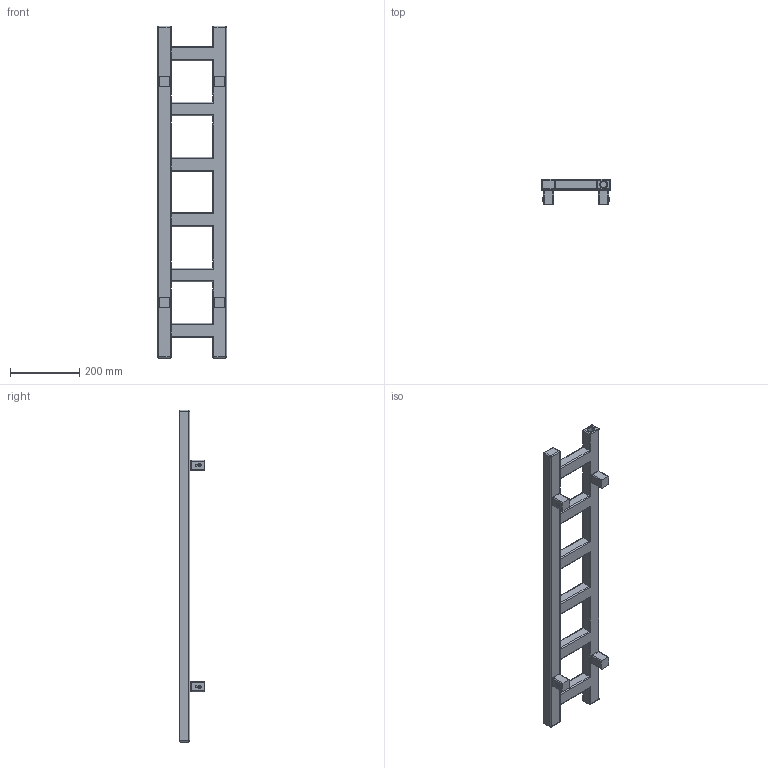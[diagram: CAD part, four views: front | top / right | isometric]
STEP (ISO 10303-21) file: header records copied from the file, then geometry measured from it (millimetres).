
FILE_DESCRIPTION((''),'2;1');
FILE_NAME('Z:\R\G\P\RGP102 - Grzejnik Easy 2012\Work\Inventor\Marketing\Modele AutoCAD\EAS-200-960 S5.stp','2012-07-02T08:14:29',('KurKa'),(''),'Autodesk Inventor 2012','Autodesk Inventor 2012','');
FILE_SCHEMA(('AUTOMOTIVE_DESIGN { 1 0 10303 214 1 1 1 1 }'));
Length unit declared in the file: millimetre
Products named in the file (3): EAS-200-960 S5; MMT42_marketing
Assembly tree (5 placements, depth 2):
  EAS-200-960 S5
    EAS-200-960 S5
    MMT42_marketing  x4
Bounding box: 200 x 72 x 960 mm (x, y, z)
Volume: 3279436 mm3; surface area: 381437.1 mm2
Topology: 5 solids, 5 shells, 310 faces, 734 edges, 435 vertices
Faces by surface type: plane 151, cylinder 110, cone 27, sphere 14, torus 8
Full cylindrical faces by diameter (mm): 4.509 x4, 12 x4, 18.631 x3
Entity records: 4844 total; most frequent: DIRECTION 883, CARTESIAN_POINT 820, ORIENTED_EDGE 766, EDGE_CURVE 383, AXIS2_PLACEMENT_3D 321, VECTOR 241, LINE 241, VERTEX_POINT 218
